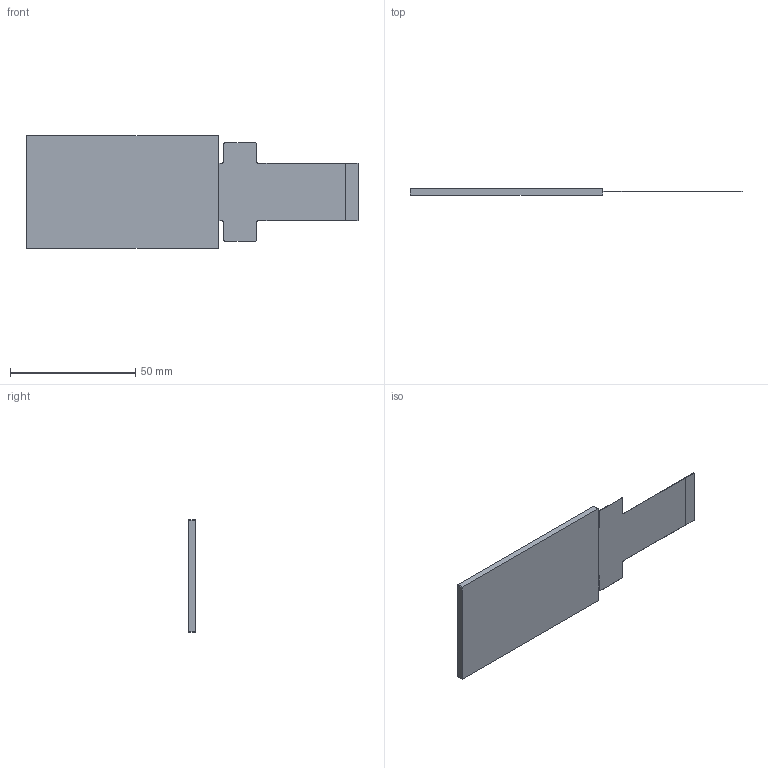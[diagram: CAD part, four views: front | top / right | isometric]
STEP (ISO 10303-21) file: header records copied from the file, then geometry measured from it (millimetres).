
FILE_DESCRIPTION (( 'STEP AP214' ), '1' );
FILE_NAME ('CFAF240400C0-030SC.STEP', '2020-02-28T22:57:55', ( '' ), ( '' ), 'SwSTEP 2.0', 'SolidWorks 2015', '' );
FILE_SCHEMA (( 'AUTOMOTIVE_DESIGN' ));
Length unit declared in the file: millimetre
Products named in the file (1): CFAF240400C0-030SC
Bounding box: 132.5 x 2.6 x 45.04 mm (x, y, z)
Volume: 9230.7 mm3; surface area: 10589 mm2
Topology: 2 solids, 2 shells, 215 faces, 634 edges, 424 vertices
Faces by surface type: plane 203, cylinder 12
Entity records: 9430 total; most frequent: CARTESIAN_POINT 1274, ORIENTED_EDGE 1268, DIRECTION 1090, EDGE_CURVE 634, VECTOR 610, LINE 610, VERTEX_POINT 424, AXIS2_PLACEMENT_3D 240
